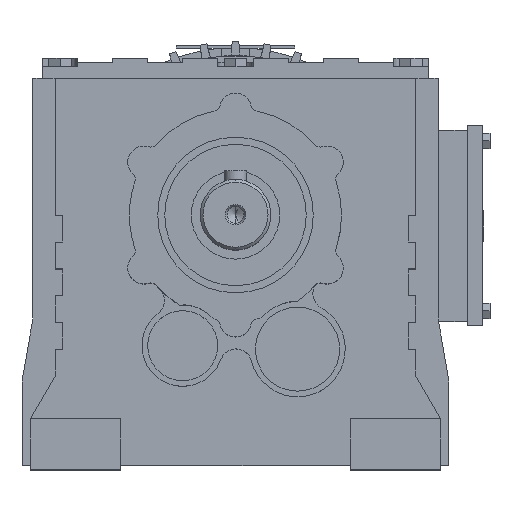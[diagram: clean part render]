
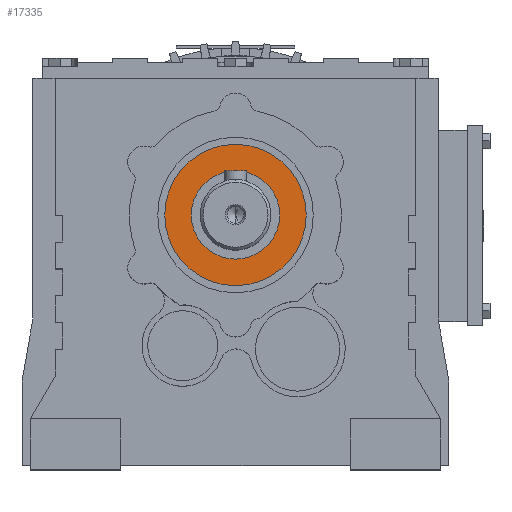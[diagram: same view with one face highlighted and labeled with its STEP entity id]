
A CAD part, top view. The second image highlights one B-rep face of the part: STEP entity #17335.
In plain terms, the highlighted planar face has unit normal (0, 0, 1).
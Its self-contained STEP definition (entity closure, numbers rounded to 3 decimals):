
#17182 = CYLINDRICAL_SURFACE('',#17183,25.);
#17183 = AXIS2_PLACEMENT_3D('',#17184,#17185,#17186);
#17184 = CARTESIAN_POINT('',(0.,0.,193.));
#17185 = DIRECTION('',(0.,0.,1.));
#17186 = DIRECTION('',(0.,-1.,0.));
#17212 = CYLINDRICAL_SURFACE('',#17213,25.);
#17213 = AXIS2_PLACEMENT_3D('',#17214,#17215,#17216);
#17214 = CARTESIAN_POINT('',(0.,0.,193.));
#17215 = DIRECTION('',(0.,0.,1.));
#17216 = DIRECTION('',(0.,-1.,0.));
#17240 = EDGE_CURVE('',#17241,#17243,#17245,.T.);
#17241 = VERTEX_POINT('',#17242);
#17242 = CARTESIAN_POINT('',(0.,-25.,140.375));
#17243 = VERTEX_POINT('',#17244);
#17244 = CARTESIAN_POINT('',(0.,25.,140.375));
#17245 = SURFACE_CURVE('',#17246,(#17251,#17257),.PCURVE_S1.);
#17246 = CIRCLE('',#17247,25.);
#17247 = AXIS2_PLACEMENT_3D('',#17248,#17249,#17250);
#17248 = CARTESIAN_POINT('',(0.,0.,140.375));
#17249 = DIRECTION('',(0.,0.,-1.));
#17250 = DIRECTION('',(-1.,0.,0.));
#17251 = PCURVE('',#17212,#17252);
#17252 = DEFINITIONAL_REPRESENTATION('',(#17253),#17256);
#17253 = B_SPLINE_CURVE_WITH_KNOTS('',1,(#17254,#17255),.UNSPECIFIED.,
  .F.,.F.,(2,2),(4.712,7.854),
  .PIECEWISE_BEZIER_KNOTS.);
#17254 = CARTESIAN_POINT('',(6.283,-52.625));
#17255 = CARTESIAN_POINT('',(3.142,-52.625));
#17256 = ( GEOMETRIC_REPRESENTATION_CONTEXT(2) 
PARAMETRIC_REPRESENTATION_CONTEXT() REPRESENTATION_CONTEXT('2D SPACE',''
  ) );
#17257 = PCURVE('',#17258,#17263);
#17258 = PLANE('',#17259);
#17259 = AXIS2_PLACEMENT_3D('',#17260,#17261,#17262);
#17260 = CARTESIAN_POINT('',(-4.102,19.734,140.375));
#17261 = DIRECTION('',(0.,0.,-1.));
#17262 = DIRECTION('',(-1.,0.,0.));
#17263 = DEFINITIONAL_REPRESENTATION('',(#17264),#17268);
#17264 = CIRCLE('',#17265,25.);
#17265 = AXIS2_PLACEMENT_2D('',#17266,#17267);
#17266 = CARTESIAN_POINT('',(-4.102,-19.734));
#17267 = DIRECTION('',(1.,0.));
#17268 = ( GEOMETRIC_REPRESENTATION_CONTEXT(2) 
PARAMETRIC_REPRESENTATION_CONTEXT() REPRESENTATION_CONTEXT('2D SPACE',''
  ) );
#17315 = EDGE_CURVE('',#17243,#17241,#17316,.T.);
#17316 = SURFACE_CURVE('',#17317,(#17322,#17328),.PCURVE_S1.);
#17317 = CIRCLE('',#17318,25.);
#17318 = AXIS2_PLACEMENT_3D('',#17319,#17320,#17321);
#17319 = CARTESIAN_POINT('',(0.,0.,140.375));
#17320 = DIRECTION('',(0.,0.,-1.));
#17321 = DIRECTION('',(-1.,0.,0.));
#17322 = PCURVE('',#17182,#17323);
#17323 = DEFINITIONAL_REPRESENTATION('',(#17324),#17327);
#17324 = B_SPLINE_CURVE_WITH_KNOTS('',1,(#17325,#17326),.UNSPECIFIED.,
  .F.,.F.,(2,2),(1.571,4.712),
  .PIECEWISE_BEZIER_KNOTS.);
#17325 = CARTESIAN_POINT('',(3.142,-52.625));
#17326 = CARTESIAN_POINT('',(0.,-52.625));
#17327 = ( GEOMETRIC_REPRESENTATION_CONTEXT(2) 
PARAMETRIC_REPRESENTATION_CONTEXT() REPRESENTATION_CONTEXT('2D SPACE',''
  ) );
#17328 = PCURVE('',#17258,#17329);
#17329 = DEFINITIONAL_REPRESENTATION('',(#17330),#17334);
#17330 = CIRCLE('',#17331,25.);
#17331 = AXIS2_PLACEMENT_2D('',#17332,#17333);
#17332 = CARTESIAN_POINT('',(-4.102,-19.734));
#17333 = DIRECTION('',(1.,0.));
#17334 = ( GEOMETRIC_REPRESENTATION_CONTEXT(2) 
PARAMETRIC_REPRESENTATION_CONTEXT() REPRESENTATION_CONTEXT('2D SPACE',''
  ) );
#17335 = ADVANCED_FACE('',(#17336,#17402),#17258,.F.);
#17336 = FACE_BOUND('',#17337,.T.);
#17337 = EDGE_LOOP('',(#17338,#17372));
#17338 = ORIENTED_EDGE('',*,*,#17339,.F.);
#17339 = EDGE_CURVE('',#17340,#17342,#17344,.T.);
#17340 = VERTEX_POINT('',#17341);
#17341 = CARTESIAN_POINT('',(0.,-15.625,140.375));
#17342 = VERTEX_POINT('',#17343);
#17343 = CARTESIAN_POINT('',(0.,15.625,140.375));
#17344 = SURFACE_CURVE('',#17345,(#17350,#17361),.PCURVE_S1.);
#17345 = CIRCLE('',#17346,15.625);
#17346 = AXIS2_PLACEMENT_3D('',#17347,#17348,#17349);
#17347 = CARTESIAN_POINT('',(0.,0.,140.375));
#17348 = DIRECTION('',(0.,0.,1.));
#17349 = DIRECTION('',(-1.,0.,0.));
#17350 = PCURVE('',#17258,#17351);
#17351 = DEFINITIONAL_REPRESENTATION('',(#17352),#17360);
#17352 = ( BOUNDED_CURVE() B_SPLINE_CURVE(2,(#17353,#17354,#17355,#17356
    ,#17357,#17358,#17359),.UNSPECIFIED.,.T.,.F.) 
B_SPLINE_CURVE_WITH_KNOTS((1,2,2,2,2,1),(-2.094,0.,
    2.094,4.189,6.283,8.378),
.UNSPECIFIED.) CURVE() GEOMETRIC_REPRESENTATION_ITEM() 
RATIONAL_B_SPLINE_CURVE((1.,0.5,1.,0.5,1.,0.5,1.)) REPRESENTATION_ITEM(
  '') );
#17353 = CARTESIAN_POINT('',(11.523,-19.734));
#17354 = CARTESIAN_POINT('',(11.523,-46.798));
#17355 = CARTESIAN_POINT('',(-11.915,-33.266));
#17356 = CARTESIAN_POINT('',(-35.352,-19.734));
#17357 = CARTESIAN_POINT('',(-11.915,-6.203));
#17358 = CARTESIAN_POINT('',(11.523,7.329));
#17359 = CARTESIAN_POINT('',(11.523,-19.734));
#17360 = ( GEOMETRIC_REPRESENTATION_CONTEXT(2) 
PARAMETRIC_REPRESENTATION_CONTEXT() REPRESENTATION_CONTEXT('2D SPACE',''
  ) );
#17361 = PCURVE('',#17362,#17367);
#17362 = CYLINDRICAL_SURFACE('',#17363,15.625);
#17363 = AXIS2_PLACEMENT_3D('',#17364,#17365,#17366);
#17364 = CARTESIAN_POINT('',(0.,0.,193.));
#17365 = DIRECTION('',(0.,0.,1.));
#17366 = DIRECTION('',(0.,-1.,0.));
#17367 = DEFINITIONAL_REPRESENTATION('',(#17368),#17371);
#17368 = B_SPLINE_CURVE_WITH_KNOTS('',1,(#17369,#17370),.UNSPECIFIED.,
  .F.,.F.,(2,2),(1.571,4.712),
  .PIECEWISE_BEZIER_KNOTS.);
#17369 = CARTESIAN_POINT('',(0.,-52.625));
#17370 = CARTESIAN_POINT('',(3.142,-52.625));
#17371 = ( GEOMETRIC_REPRESENTATION_CONTEXT(2) 
PARAMETRIC_REPRESENTATION_CONTEXT() REPRESENTATION_CONTEXT('2D SPACE',''
  ) );
#17372 = ORIENTED_EDGE('',*,*,#17373,.F.);
#17373 = EDGE_CURVE('',#17342,#17340,#17374,.T.);
#17374 = SURFACE_CURVE('',#17375,(#17380,#17391),.PCURVE_S1.);
#17375 = CIRCLE('',#17376,15.625);
#17376 = AXIS2_PLACEMENT_3D('',#17377,#17378,#17379);
#17377 = CARTESIAN_POINT('',(0.,0.,140.375));
#17378 = DIRECTION('',(0.,0.,1.));
#17379 = DIRECTION('',(-1.,0.,0.));
#17380 = PCURVE('',#17258,#17381);
#17381 = DEFINITIONAL_REPRESENTATION('',(#17382),#17390);
#17382 = ( BOUNDED_CURVE() B_SPLINE_CURVE(2,(#17383,#17384,#17385,#17386
    ,#17387,#17388,#17389),.UNSPECIFIED.,.T.,.F.) 
B_SPLINE_CURVE_WITH_KNOTS((1,2,2,2,2,1),(-2.094,0.,
    2.094,4.189,6.283,8.378),
.UNSPECIFIED.) CURVE() GEOMETRIC_REPRESENTATION_ITEM() 
RATIONAL_B_SPLINE_CURVE((1.,0.5,1.,0.5,1.,0.5,1.)) REPRESENTATION_ITEM(
  '') );
#17383 = CARTESIAN_POINT('',(11.523,-19.734));
#17384 = CARTESIAN_POINT('',(11.523,-46.798));
#17385 = CARTESIAN_POINT('',(-11.915,-33.266));
#17386 = CARTESIAN_POINT('',(-35.352,-19.734));
#17387 = CARTESIAN_POINT('',(-11.915,-6.203));
#17388 = CARTESIAN_POINT('',(11.523,7.329));
#17389 = CARTESIAN_POINT('',(11.523,-19.734));
#17390 = ( GEOMETRIC_REPRESENTATION_CONTEXT(2) 
PARAMETRIC_REPRESENTATION_CONTEXT() REPRESENTATION_CONTEXT('2D SPACE',''
  ) );
#17391 = PCURVE('',#17392,#17397);
#17392 = CYLINDRICAL_SURFACE('',#17393,15.625);
#17393 = AXIS2_PLACEMENT_3D('',#17394,#17395,#17396);
#17394 = CARTESIAN_POINT('',(0.,0.,193.));
#17395 = DIRECTION('',(0.,0.,1.));
#17396 = DIRECTION('',(0.,-1.,0.));
#17397 = DEFINITIONAL_REPRESENTATION('',(#17398),#17401);
#17398 = B_SPLINE_CURVE_WITH_KNOTS('',1,(#17399,#17400),.UNSPECIFIED.,
  .F.,.F.,(2,2),(4.712,7.854),
  .PIECEWISE_BEZIER_KNOTS.);
#17399 = CARTESIAN_POINT('',(3.142,-52.625));
#17400 = CARTESIAN_POINT('',(6.283,-52.625));
#17401 = ( GEOMETRIC_REPRESENTATION_CONTEXT(2) 
PARAMETRIC_REPRESENTATION_CONTEXT() REPRESENTATION_CONTEXT('2D SPACE',''
  ) );
#17402 = FACE_BOUND('',#17403,.T.);
#17403 = EDGE_LOOP('',(#17404,#17405));
#17404 = ORIENTED_EDGE('',*,*,#17240,.F.);
#17405 = ORIENTED_EDGE('',*,*,#17315,.F.);
